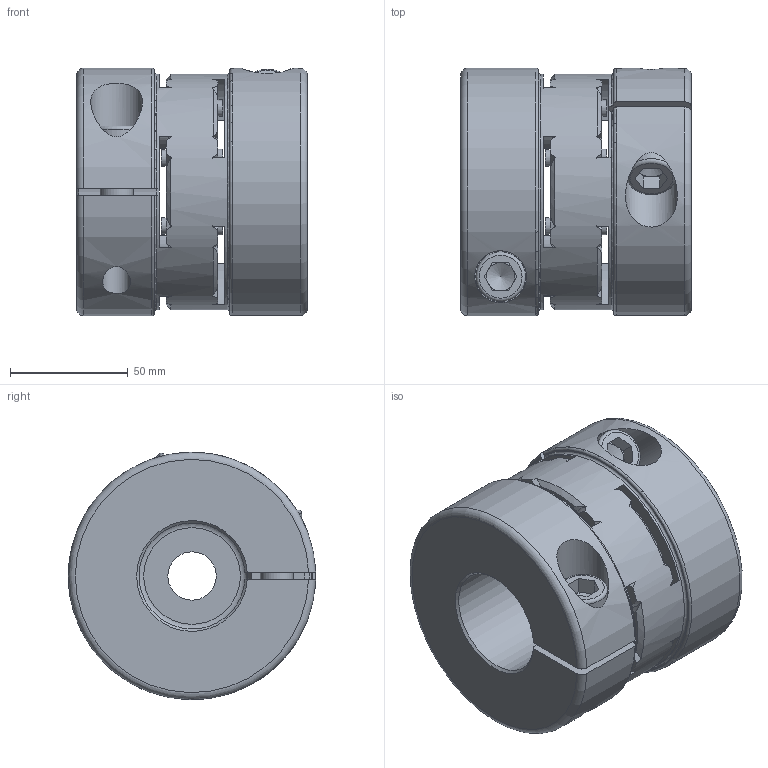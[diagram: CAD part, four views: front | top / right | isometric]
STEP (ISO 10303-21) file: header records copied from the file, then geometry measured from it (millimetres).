
FILE_DESCRIPTION(/* description */ ('Unknown','CAx-IF Rec.Pracs.---Representation and Presentation of Product Manufacturing Information (PMI)---4.0---2014-10-13','CAx-IF Rec.Pracs.---3D Tessellated Geometry---0.4---2014-09-14','2;1'),/* implementation_level */ '2;1');
FILE_NAME(/* name */ 'EKM - VA 350',/* time_stamp */ '2023-05-26T10:30:51+02:00',/* author */ ('Unknown'),/* organization */ ('Unknown'),/* preprocessor_version */ 'ST-DEVELOPER v18.102',/* originating_system */ 'Solid Edge',/* authorisation */ 'Unknown');
FILE_SCHEMA (('AP242_MANAGED_MODEL_BASED_3D_ENGINEERING_MIM_LF { 1 0 10303 442 1 1 4 }'));
Length unit declared in the file: millimetre
Products named in the file (1): EKM - VA 350
Bounding box: 98 x 104.98 x 104.99 mm (x, y, z)
Volume: 616413.2 mm3; surface area: 106211.1 mm2
Topology: 1 solids, 1 shells, 221 faces, 626 edges, 402 vertices
Faces by surface type: cylinder 77, cone 72, plane 62, torus 10
Full cylindrical faces by diameter (mm): 7 x8, 11.835 x4, 14 x2, 14.5 x2, 20.5 x1, 21 x2, 22 x2, 47 x2, 100 x1
Entity records: 9028 total; most frequent: CARTESIAN_POINT 1978, ORIENTED_EDGE 1152, DIRECTION 1140, EDGE_CURVE 576, AXIS2_PLACEMENT_3D 494, VERTEX_POINT 388, FACE_BOUND 284, EDGE_LOOP 282
